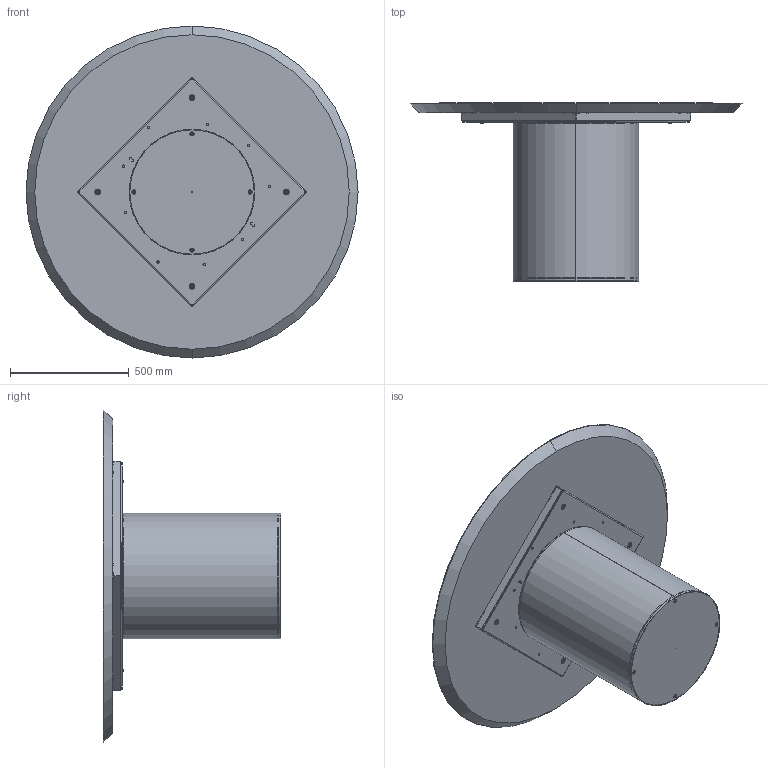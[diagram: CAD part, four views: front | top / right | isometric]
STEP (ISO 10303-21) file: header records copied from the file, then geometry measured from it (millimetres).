
FILE_DESCRIPTION (( 'STEP AP203' ), '1' );
FILE_NAME ('CI06W.STEP', '2024-08-08T07:01:28', ( '' ), ( '' ), 'SwSTEP 2.0', 'SolidWorks 2022', '' );
FILE_SCHEMA (( 'CONFIG_CONTROL_DESIGN' ));
Length unit declared in the file: millimetre
Products named in the file (12): C2B000000_02-01-ZAVORRA IN FERRO D.530mm; C2B000000-03-CILINDRO BASE D.530mm_Normale; rondella M8_8X24; TTAV0801-02-TELAIO UNIVERSALE TONDO; COLLO TELAIO UNIVERSALE TTAV0801 CON FERRAMENTA_MTG TOP LEGNO-MARMO-KING; CI06W; C2B000000_01-00-struttura cilindro D.530mm; TTAV0801 TELAIO UNIVERSALE TONDO-PIASTRINA; TTAV0801-02-TELAIO UNIVERSALE TONDO-VASSOIO; M8xXXmm_hex_M8X20mm; M8xXXmm_M8x55mm; W1XCMXX-00-Piani Rotondi legno_D.1400
Assembly tree (23 placements, depth 4):
  CI06W
    C2B000000-03-CILINDRO BASE D.530mm_Normale
      C2B000000_01-00-struttura cilindro D.530mm
      C2B000000_02-01-ZAVORRA IN FERRO D.530mm
      M8xXXmm_hex_M8X20mm  x4
    COLLO TELAIO UNIVERSALE TTAV0801 CON FERRAMENTA_MTG TOP LEGNO-MARMO-KING
      TTAV0801-02-TELAIO UNIVERSALE TONDO
        TTAV0801-02-TELAIO UNIVERSALE TONDO-VASSOIO
        TTAV0801 TELAIO UNIVERSALE TONDO-PIASTRINA  x4
      rondella M8_8X24  x4
      M8xXXmm_M8x55mm  x4
    W1XCMXX-00-Piani Rotondi legno_D.1400
Bounding box: 1400 x 750 x 1400 mm (x, y, z)
Volume: 65918469.7 mm3; surface area: 7303288.3 mm2
Topology: 23 solids, 23 shells, 862 faces, 2140 edges, 1308 vertices
Faces by surface type: plane 380, cylinder 326, cone 86, torus 56, sphere 14
Entity records: 17104 total; most frequent: DIRECTION 2838, CARTESIAN_POINT 2690, ORIENTED_EDGE 2566, EDGE_CURVE 1283, AXIS2_PLACEMENT_3D 1043, VERTEX_POINT 809, LINE 752, VECTOR 752
